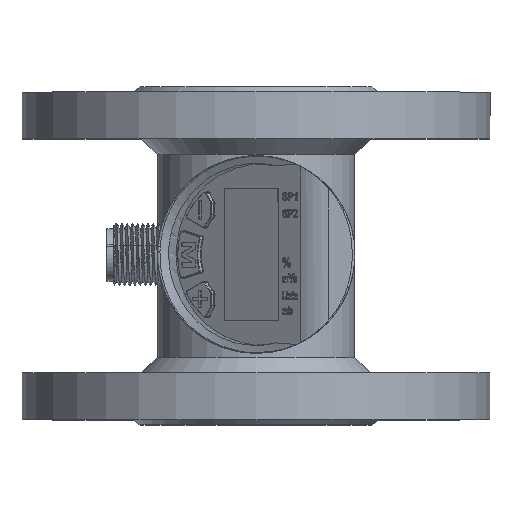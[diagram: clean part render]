
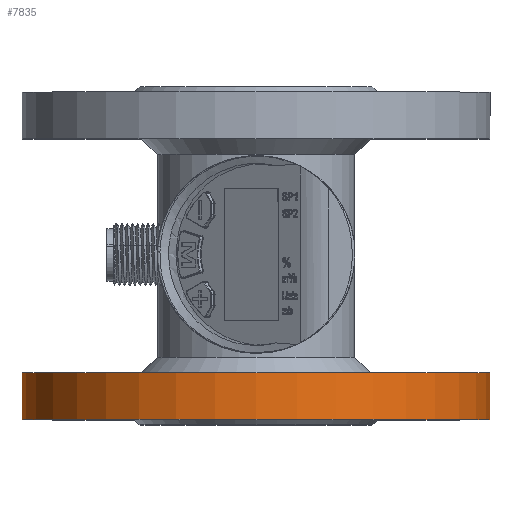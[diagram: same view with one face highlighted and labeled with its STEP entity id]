
A CAD part, top view. The second image highlights one B-rep face of the part: STEP entity #7835.
In plain terms, the highlighted cylindrical face has radius 45 mm (diameter 90 mm), a full revolution.
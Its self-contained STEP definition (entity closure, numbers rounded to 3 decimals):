
#6053=CYLINDRICAL_SURFACE('',#22997,45.);
#7835=ADVANCED_FACE('',(#8687,#8688),#6053,.T.);
#8687=FACE_BOUND('',#9958,.T.);
#8688=FACE_BOUND('',#9959,.T.);
#9958=EDGE_LOOP('',(#15288));
#9959=EDGE_LOOP('',(#15289));
#10622=CIRCLE('',#22995,45.);
#10623=CIRCLE('',#22996,45.);
#15288=ORIENTED_EDGE('',*,*,#19333,.F.);
#15289=ORIENTED_EDGE('',*,*,#19334,.T.);
#16970=VERTEX_POINT('',#44984);
#16971=VERTEX_POINT('',#44986);
#19333=EDGE_CURVE('',#16970,#16970,#10622,.T.);
#19334=EDGE_CURVE('',#16971,#16971,#10623,.T.);
#22995=AXIS2_PLACEMENT_3D('',#44983,#27097,#27098);
#22996=AXIS2_PLACEMENT_3D('',#44985,#27099,#27100);
#22997=AXIS2_PLACEMENT_3D('',#44987,#27101,#27102);
#27097=DIRECTION('',(0.,1.,0.));
#27098=DIRECTION('',(1.,0.,0.));
#27099=DIRECTION('',(0.,1.,0.));
#27100=DIRECTION('',(1.,0.,0.));
#27101=DIRECTION('',(0.,-1.,0.));
#27102=DIRECTION('',(-1.,0.,0.));
#44983=CARTESIAN_POINT('',(25.516,13.9,-111.724));
#44984=CARTESIAN_POINT('',(70.516,13.9,-111.724));
#44985=CARTESIAN_POINT('',(25.516,4.9,-111.724));
#44986=CARTESIAN_POINT('',(70.516,4.9,-111.724));
#44987=CARTESIAN_POINT('',(25.516,13.9,-111.724));
